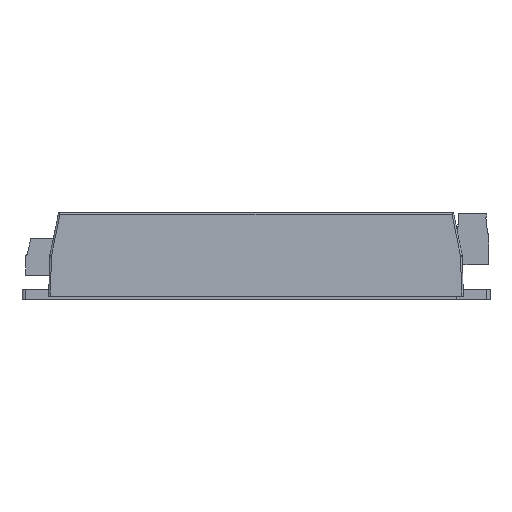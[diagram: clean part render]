
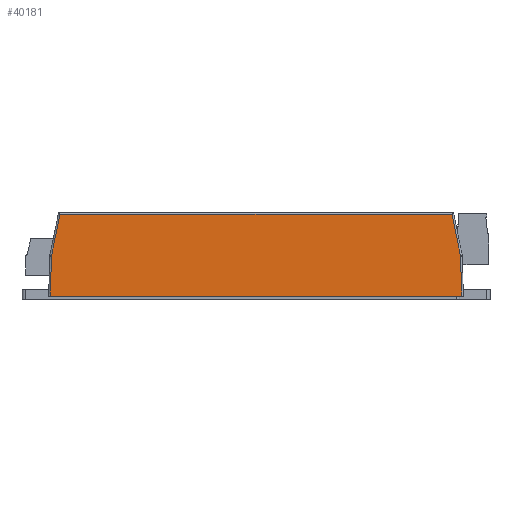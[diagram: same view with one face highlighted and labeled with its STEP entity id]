
A CAD part, front view. The second image highlights one B-rep face of the part: STEP entity #40181.
In plain terms, the highlighted planar face has unit normal (0, -1, 0.014).
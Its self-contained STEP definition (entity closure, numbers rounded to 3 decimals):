
#1148 = CARTESIAN_POINT ( 'NONE',  ( -58.642, 63.373, -0.193 ) ) ;
#3685 = CARTESIAN_POINT ( 'NONE',  ( -60.773, 63.425, 3.508 ) ) ;
#4105 = LINE ( 'NONE', #31971, #58771 ) ;
#9372 = VERTEX_POINT ( 'NONE', #93816 ) ;
#9590 = DIRECTION ( 'NONE',  ( 1., 0., 0. ) ) ;
#17843 = VECTOR ( 'NONE', #97772, 1000. ) ;
#18766 = ORIENTED_EDGE ( 'NONE', *, *, #95926, .T. ) ;
#20537 = LINE ( 'NONE', #3685, #108818 ) ;
#21371 = VECTOR ( 'NONE', #9590, 1000. ) ;
#25393 = EDGE_CURVE ( 'NONE', #98321, #85816, #88220, .T. ) ;
#26133 = DIRECTION ( 'NONE',  ( -1., 0., 0. ) ) ;
#30860 = VERTEX_POINT ( 'NONE', #69371 ) ;
#31971 = CARTESIAN_POINT ( 'NONE',  ( 60.858, 63.38, 0.277 ) ) ;
#35180 = LINE ( 'NONE', #107229, #21371 ) ;
#37120 = DIRECTION ( 'NONE',  ( 0., -1., 0.014 ) ) ;
#40181 = ADVANCED_FACE ( 'NONE', ( #71410 ), #79585, .T. ) ;
#43864 = ORIENTED_EDGE ( 'NONE', *, *, #95341, .T. ) ;
#49962 = EDGE_CURVE ( 'NONE', #30860, #91478, #64570, .T. ) ;
#55962 = DIRECTION ( 'NONE',  ( -0.026, -0.014, -1. ) ) ;
#58300 = VERTEX_POINT ( 'NONE', #93027 ) ;
#58771 = VECTOR ( 'NONE', #109881, 1000. ) ;
#64570 = LINE ( 'NONE', #100056, #17843 ) ;
#68193 = CARTESIAN_POINT ( 'NONE',  ( 58.642, 63.373, -0.193 ) ) ;
#69371 = CARTESIAN_POINT ( 'NONE',  ( 61.199, 63.198, -12.75 ) ) ;
#70842 = CARTESIAN_POINT ( 'NONE',  ( 61.75, 63.38, 0.3 ) ) ;
#71410 = FACE_OUTER_BOUND ( 'NONE', #81931, .T. ) ;
#73580 = CARTESIAN_POINT ( 'NONE',  ( -59.05, 63.373, -0.193 ) ) ;
#74342 = VECTOR ( 'NONE', #99243, 1000. ) ;
#75004 = ORIENTED_EDGE ( 'NONE', *, *, #25393, .T. ) ;
#79585 = PLANE ( 'NONE',  #109990 ) ;
#81931 = EDGE_LOOP ( 'NONE', ( #110540, #75004, #43864, #109060, #18766, #97287 ) ) ;
#82270 = EDGE_CURVE ( 'NONE', #58300, #9372, #35180, .T. ) ;
#85816 = VERTEX_POINT ( 'NONE', #106750 ) ;
#88220 = LINE ( 'NONE', #98680, #74342 ) ;
#91478 = VERTEX_POINT ( 'NONE', #68193 ) ;
#93027 = CARTESIAN_POINT ( 'NONE',  ( -61.512, 63.031, -24.7 ) ) ;
#93816 = CARTESIAN_POINT ( 'NONE',  ( 61.512, 63.031, -24.7 ) ) ;
#95341 = EDGE_CURVE ( 'NONE', #85816, #58300, #20537, .T. ) ;
#95926 = EDGE_CURVE ( 'NONE', #9372, #30860, #4105, .T. ) ;
#97287 = ORIENTED_EDGE ( 'NONE', *, *, #49962, .T. ) ;
#97772 = DIRECTION ( 'NONE',  ( -0.2, 0.014, 0.98 ) ) ;
#98321 = VERTEX_POINT ( 'NONE', #1148 ) ;
#98680 = CARTESIAN_POINT ( 'NONE',  ( -53.751, 63.709, 23.819 ) ) ;
#99243 = DIRECTION ( 'NONE',  ( -0.2, -0.014, -0.98 ) ) ;
#100056 = CARTESIAN_POINT ( 'NONE',  ( 58.669, 63.372, -0.327 ) ) ;
#100540 = EDGE_CURVE ( 'NONE', #91478, #98321, #107332, .T. ) ;
#106750 = CARTESIAN_POINT ( 'NONE',  ( -61.199, 63.198, -12.75 ) ) ;
#107229 = CARTESIAN_POINT ( 'NONE',  ( 61.75, 63.031, -24.7 ) ) ;
#107332 = LINE ( 'NONE', #73580, #109308 ) ;
#108458 = DIRECTION ( 'NONE',  ( -1., 0., 0. ) ) ;
#108818 = VECTOR ( 'NONE', #55962, 1000. ) ;
#109060 = ORIENTED_EDGE ( 'NONE', *, *, #82270, .T. ) ;
#109308 = VECTOR ( 'NONE', #108458, 1000. ) ;
#109881 = DIRECTION ( 'NONE',  ( -0.026, 0.014, 1. ) ) ;
#109990 = AXIS2_PLACEMENT_3D ( 'NONE', #70842, #37120, #26133 ) ;
#110540 = ORIENTED_EDGE ( 'NONE', *, *, #100540, .T. ) ;
